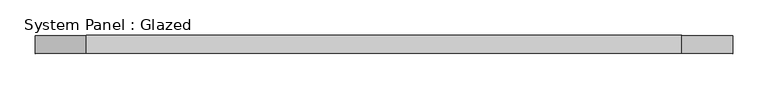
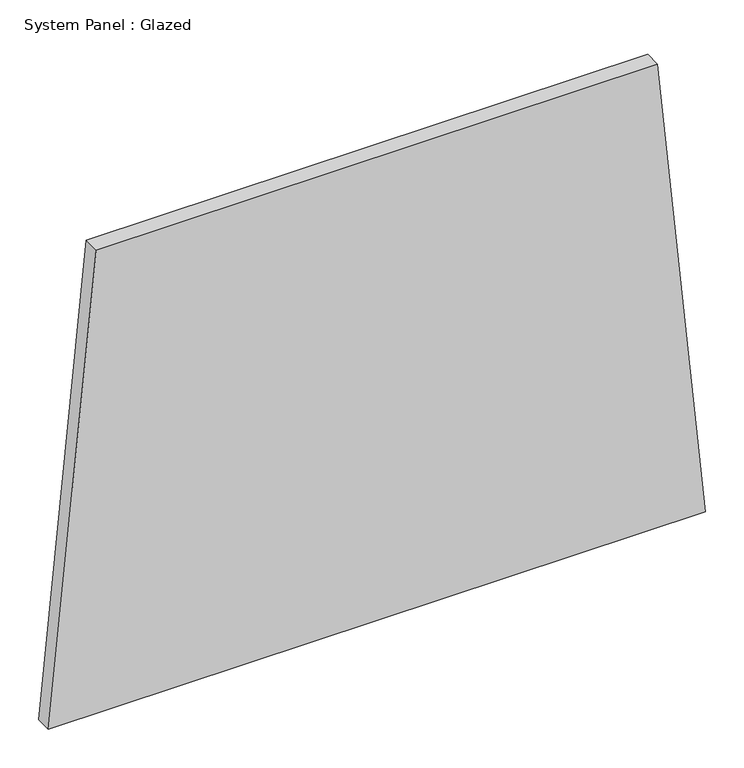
"""IFC4 building model written with IfcOpenShell, lengths in millimetres: plate geometry, System Panel : Glazed."""

from ifc_helpers import new_model, si_unit, frame, origin, place, context, project, spatial, polyline, outline, extrude, source, transform, mapped, element, save


def system_panel_glazed_b552b528(model_context):
    return source(origin(), model_context, "Body", "SweptSolid", [
        extrude(outline(polyline([(0.0, -491.8972707), (0.0, 491.8972707), (732.9818329, 420.2126588), (732.9818329, -420.2126588), (0.0, -491.8972707)])), frame((0.0, -44.45, 0.0), z_axis=(0.0, 1.0, 0.0), x_axis=(0.0, 0.0, 1.0)), (0.0, 0.0, 1.0), 25.4),
    ])


if __name__ == "__main__":
    model = new_model("IFC4")
    model_context = context("Model", 3, world=origin())
    ifc_project = project(units=[si_unit("LENGTHUNIT", "METRE", prefix="MILLI")], contexts=[model_context])
    site = spatial("IfcSite", under=ifc_project)
    building = spatial("IfcBuilding", under=site)
    placement = place(None, origin())
    system_panel_glazed_shape = system_panel_glazed_b552b528(model_context)
    element("IfcPlate", 1, ObjectType="System Panel : Glazed", at=placement, inside=building, context=model_context, shape_type="MappedRepresentation", body=[
        mapped(system_panel_glazed_shape, transform((0.0, 0.0, 0.0), x_axis=(1.0, 0.0, 0.0), y_axis=(0.0, 1.0, 0.0), z_axis=(0.0, 0.0, 1.0))),
    ])
    save(model, "model.ifc")
